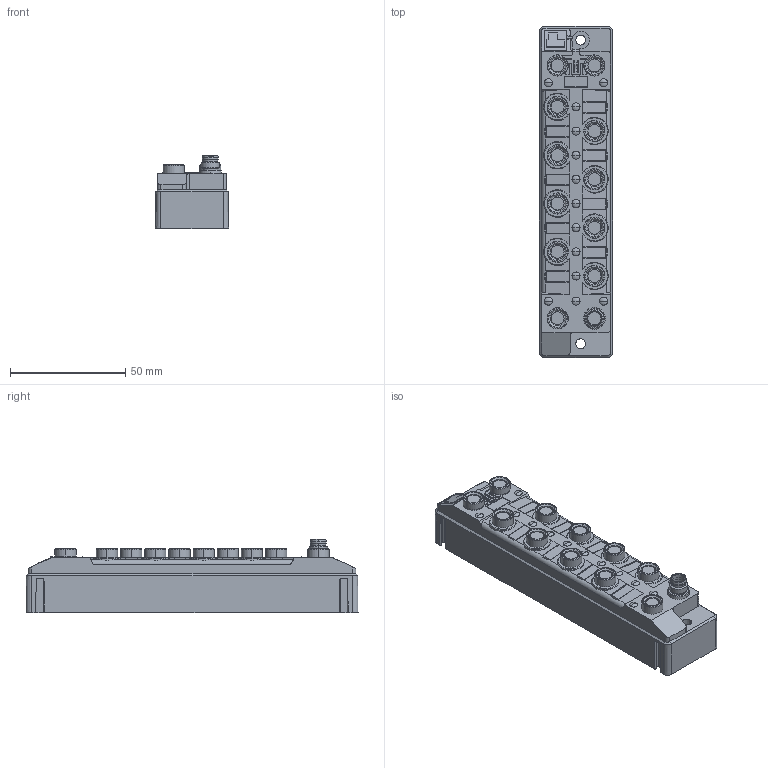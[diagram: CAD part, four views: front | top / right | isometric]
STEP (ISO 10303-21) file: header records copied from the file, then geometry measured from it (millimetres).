
FILE_DESCRIPTION (( 'STEP AP203' ), '1' );
FILE_NAME ('TBEN-S1.step', '2015-02-24T15:15:05', ( 'Turck User' ), ( '' ), 'SwSTEP 2.0', 'SolidWorks 2014', '' );
FILE_SCHEMA (( 'CONFIG_CONTROL_DESIGN' ));
Length unit declared in the file: millimetre
Products named in the file (2): TBEN-S1
Bounding box: 31.9 x 144.3 x 32.1 mm (x, y, z)
Volume: 104629.5 mm3; surface area: 22571.5 mm2
Topology: 1 solids, 1 shells, 583 faces, 1521 edges, 957 vertices
Faces by surface type: plane 262, cylinder 167, cone 78, bspline 50, torus 26
Entity records: 18527 total; most frequent: CARTESIAN_POINT 4229, ORIENTED_EDGE 2990, DIRECTION 2985, EDGE_CURVE 1495, AXIS2_PLACEMENT_3D 1065, VERTEX_POINT 957, VECTOR 855, LINE 855
